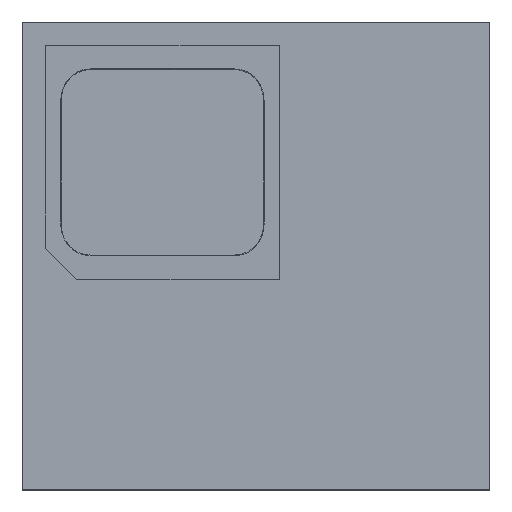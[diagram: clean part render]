
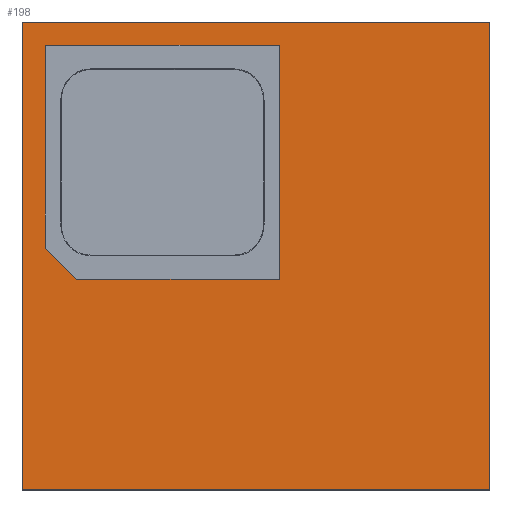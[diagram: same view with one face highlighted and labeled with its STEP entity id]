
A CAD part, top view. The second image highlights one B-rep face of the part: STEP entity #198.
In plain terms, the highlighted planar face has unit normal (0, 0, 1).
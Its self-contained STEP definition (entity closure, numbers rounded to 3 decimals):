
#198=ADVANCED_FACE('',(#465,#466),#467,.T.);
#465=FACE_OUTER_BOUND('',#792,.T.);
#466=FACE_BOUND('',#793,.T.);
#467=PLANE('',#794);
#792=EDGE_LOOP('',(#1894,#1895,#1896,#1897));
#793=EDGE_LOOP('',(#1898,#1899,#1900,#1901,#1902));
#794=AXIS2_PLACEMENT_3D('',#1903,#1904,#1905);
#1894=ORIENTED_EDGE('',*,*,#2291,.F.);
#1895=ORIENTED_EDGE('',*,*,#2297,.F.);
#1896=ORIENTED_EDGE('',*,*,#2301,.F.);
#1897=ORIENTED_EDGE('',*,*,#2303,.F.);
#1898=ORIENTED_EDGE('',*,*,#2339,.F.);
#1899=ORIENTED_EDGE('',*,*,#2341,.F.);
#1900=ORIENTED_EDGE('',*,*,#2343,.F.);
#1901=ORIENTED_EDGE('',*,*,#2329,.F.);
#1902=ORIENTED_EDGE('',*,*,#2326,.F.);
#1903=CARTESIAN_POINT('',(0.,0.,0.));
#1904=DIRECTION('',(0.,0.,1.0));
#1905=DIRECTION('',(0.,1.0,0.));
#2291=EDGE_CURVE('',#3290,#3292,#3293,.T.);
#2297=EDGE_CURVE('',#3302,#3290,#3304,.T.);
#2301=EDGE_CURVE('',#3309,#3302,#3311,.T.);
#2303=EDGE_CURVE('',#3292,#3309,#3313,.T.);
#2326=EDGE_CURVE('',#3357,#3358,#3359,.T.);
#2329=EDGE_CURVE('',#3358,#3362,#3363,.T.);
#2339=EDGE_CURVE('',#3373,#3357,#3374,.T.);
#2341=EDGE_CURVE('',#3376,#3373,#3377,.T.);
#2343=EDGE_CURVE('',#3362,#3376,#3379,.T.);
#3290=VERTEX_POINT('',#4222);
#3292=VERTEX_POINT('',#4225);
#3293=LINE('',#4226,#4227);
#3302=VERTEX_POINT('',#4240);
#3304=LINE('',#4243,#4244);
#3309=VERTEX_POINT('',#4251);
#3311=LINE('',#4254,#4255);
#3313=LINE('',#4258,#4259);
#3357=VERTEX_POINT('',#4317);
#3358=VERTEX_POINT('',#4318);
#3359=LINE('',#4319,#4320);
#3362=VERTEX_POINT('',#4325);
#3363=LINE('',#4326,#4327);
#3373=VERTEX_POINT('',#4346);
#3374=LINE('',#4347,#4348);
#3376=VERTEX_POINT('',#4351);
#3377=LINE('',#4352,#4353);
#3379=LINE('',#4356,#4357);
#4222=CARTESIAN_POINT('',(-3.,-3.,0.));
#4225=CARTESIAN_POINT('',(-3.,3.,0.));
#4226=CARTESIAN_POINT('',(-3.,-3.,0.));
#4227=VECTOR('',#4899,6.);
#4240=CARTESIAN_POINT('',(3.,-3.,0.));
#4243=CARTESIAN_POINT('',(3.,-3.,0.));
#4244=VECTOR('',#4905,6.0);
#4251=CARTESIAN_POINT('',(3.,3.,0.));
#4254=CARTESIAN_POINT('',(3.,3.,0.));
#4255=VECTOR('',#4909,6.);
#4258=CARTESIAN_POINT('',(-3.,3.,0.));
#4259=VECTOR('',#4911,6.);
#4317=CARTESIAN_POINT('',(0.3,-0.3,0.));
#4318=CARTESIAN_POINT('',(0.3,2.7,0.));
#4319=CARTESIAN_POINT('',(0.3,1.35,0.));
#4320=VECTOR('',#4950,1.0);
#4325=CARTESIAN_POINT('',(-2.7,2.7,0.));
#4326=CARTESIAN_POINT('',(-1.35,2.7,0.));
#4327=VECTOR('',#4953,1.0);
#4346=CARTESIAN_POINT('',(-2.3,-0.3,0.));
#4347=CARTESIAN_POINT('',(-1.15,-0.3,0.));
#4348=VECTOR('',#4963,1.0);
#4351=CARTESIAN_POINT('',(-2.7,0.1,0.));
#4352=CARTESIAN_POINT('',(-1.8,-0.8,0.));
#4353=VECTOR('',#4965,1.0);
#4356=CARTESIAN_POINT('',(-2.7,-0.15,0.));
#4357=VECTOR('',#4967,1.0);
#4899=DIRECTION('',(0.,1.0,0.));
#4905=DIRECTION('',(-1.0,0.,0.));
#4909=DIRECTION('',(0.,-1.0,0.));
#4911=DIRECTION('',(1.0,0.,0.));
#4950=DIRECTION('',(0.,1.0,0.));
#4953=DIRECTION('',(-1.0,0.,0.));
#4963=DIRECTION('',(1.0,0.,0.));
#4965=DIRECTION('',(0.707,-0.707,0.));
#4967=DIRECTION('',(0.,-1.0,0.));
